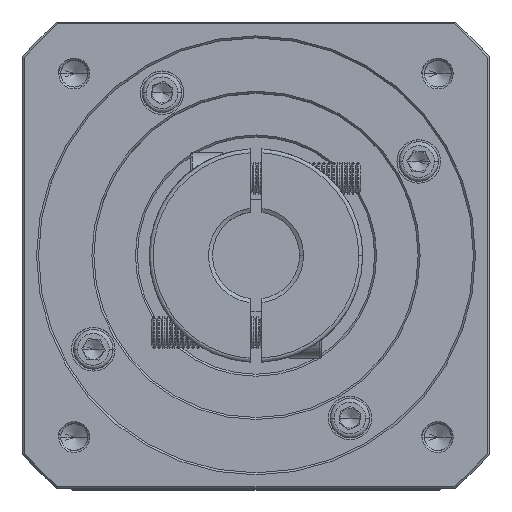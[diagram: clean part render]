
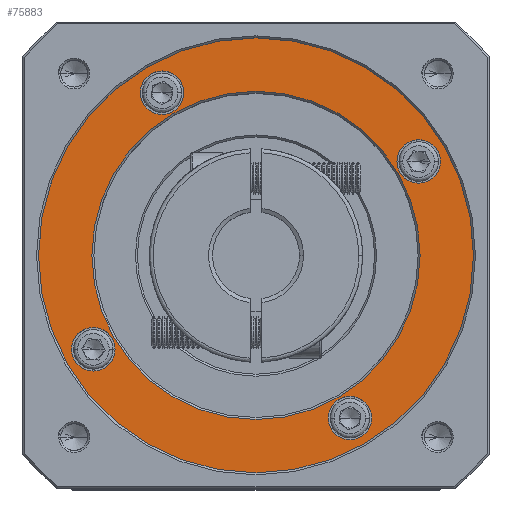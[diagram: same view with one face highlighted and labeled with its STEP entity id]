
A CAD part, top view. The second image highlights one B-rep face of the part: STEP entity #75883.
In plain terms, the highlighted planar face has unit normal (0, 0, 1).
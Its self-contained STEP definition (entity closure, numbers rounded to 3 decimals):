
#1475 = CIRCLE ( 'NONE', #83416, 41.5 ) ;
#2033 = VERTEX_POINT ( 'NONE', #104447 ) ;
#2103 = CIRCLE ( 'NONE', #91191, 5.5 ) ;
#2796 = ORIENTED_EDGE ( 'NONE', *, *, #9601, .T. ) ;
#3412 = CARTESIAN_POINT ( 'NONE',  ( -68.753, -132.661, 7.293 ) ) ;
#6359 = CARTESIAN_POINT ( 'NONE',  ( -27.617, -108.911, 7.293 ) ) ;
#6556 = EDGE_LOOP ( 'NONE', ( #25578, #52685 ) ) ;
#7109 = CARTESIAN_POINT ( 'NONE',  ( -3.867, -150.047, 7.293 ) ) ;
#7330 = FACE_OUTER_BOUND ( 'NONE', #20279, .T. ) ;
#7500 = DIRECTION ( 'NONE',  ( 0., 0., 1. ) ) ;
#8502 = CARTESIAN_POINT ( 'NONE',  ( -51.367, -67.775, 7.293 ) ) ;
#8789 = VERTEX_POINT ( 'NONE', #60836 ) ;
#9470 = ORIENTED_EDGE ( 'NONE', *, *, #53069, .T. ) ;
#9601 = EDGE_CURVE ( 'NONE', #8789, #72852, #2103, .T. ) ;
#11322 = CARTESIAN_POINT ( 'NONE',  ( -51.367, -67.775, 7.293 ) ) ;
#11351 = AXIS2_PLACEMENT_3D ( 'NONE', #56226, #28892, #72448 ) ;
#11507 = DIRECTION ( 'NONE',  ( 1., 0., 0. ) ) ;
#11981 = VERTEX_POINT ( 'NONE', #109277 ) ;
#13644 = AXIS2_PLACEMENT_3D ( 'NONE', #33456, #15517, #24853 ) ;
#14953 = AXIS2_PLACEMENT_3D ( 'NONE', #8502, #36565, #44861 ) ;
#15393 = VERTEX_POINT ( 'NONE', #87364 ) ;
#15517 = DIRECTION ( 'NONE',  ( 0., 0., -1. ) ) ;
#15541 = CARTESIAN_POINT ( 'NONE',  ( 8.019, -85.161, 7.293 ) ) ;
#15679 = CARTESIAN_POINT ( 'NONE',  ( -27.617, -108.911, 7.293 ) ) ;
#16049 = DIRECTION ( 'NONE',  ( 0., 0., -1. ) ) ;
#16906 = EDGE_CURVE ( 'NONE', #36469, #15393, #64556, .T. ) ;
#17913 = AXIS2_PLACEMENT_3D ( 'NONE', #90936, #99556, #45474 ) ;
#18149 = CIRCLE ( 'NONE', #11351, 5.5 ) ;
#18184 = DIRECTION ( 'NONE',  ( 1., 0., 0. ) ) ;
#19692 = ORIENTED_EDGE ( 'NONE', *, *, #58808, .T. ) ;
#20279 = EDGE_LOOP ( 'NONE', ( #56371, #19692 ) ) ;
#20312 = DIRECTION ( 'NONE',  ( 1., 0., 0. ) ) ;
#20431 = EDGE_CURVE ( 'NONE', #102590, #33123, #1475, .T. ) ;
#20860 = CIRCLE ( 'NONE', #29704, 5.5 ) ;
#24643 = DIRECTION ( 'NONE',  ( 0., 0., 1. ) ) ;
#24853 = DIRECTION ( 'NONE',  ( 1., 0., 0. ) ) ;
#25578 = ORIENTED_EDGE ( 'NONE', *, *, #90068, .T. ) ;
#26829 = VERTEX_POINT ( 'NONE', #48190 ) ;
#27653 = DIRECTION ( 'NONE',  ( 0., 0., 1. ) ) ;
#28777 = CIRCLE ( 'NONE', #73084, 5.5 ) ;
#28892 = DIRECTION ( 'NONE',  ( 0., 0., -1. ) ) ;
#29704 = AXIS2_PLACEMENT_3D ( 'NONE', #3412, #92954, #11507 ) ;
#33123 = VERTEX_POINT ( 'NONE', #35084 ) ;
#33339 = CIRCLE ( 'NONE', #17913, 5.5 ) ;
#33456 = CARTESIAN_POINT ( 'NONE',  ( -68.753, -132.661, 7.293 ) ) ;
#33995 = CARTESIAN_POINT ( 'NONE',  ( -27.617, -108.911, 7.293 ) ) ;
#33998 = DIRECTION ( 'NONE',  ( 1., 0., 0. ) ) ;
#34280 = VERTEX_POINT ( 'NONE', #46554 ) ;
#34756 = EDGE_CURVE ( 'NONE', #34280, #2033, #46291, .T. ) ;
#35084 = CARTESIAN_POINT ( 'NONE',  ( -27.617, -150.411, 7.293 ) ) ;
#36469 = VERTEX_POINT ( 'NONE', #97872 ) ;
#36565 = DIRECTION ( 'NONE',  ( 0., 0., -1. ) ) ;
#37821 = DIRECTION ( 'NONE',  ( 1., 0., 0. ) ) ;
#39464 = FACE_BOUND ( 'NONE', #109758, .T. ) ;
#39872 = DIRECTION ( 'NONE',  ( 0., 0., -1. ) ) ;
#40346 = PLANE ( 'NONE',  #111172 ) ;
#41029 = CIRCLE ( 'NONE', #14953, 5.5 ) ;
#41521 = EDGE_LOOP ( 'NONE', ( #72848, #9470 ) ) ;
#43253 = EDGE_LOOP ( 'NONE', ( #92287, #104820 ) ) ;
#44861 = DIRECTION ( 'NONE',  ( 1., 0., 0. ) ) ;
#45474 = DIRECTION ( 'NONE',  ( 1., 0., 0. ) ) ;
#46291 = CIRCLE ( 'NONE', #103343, 5.5 ) ;
#46554 = CARTESIAN_POINT ( 'NONE',  ( 1.633, -150.047, 7.293 ) ) ;
#47848 = FACE_BOUND ( 'NONE', #43253, .T. ) ;
#48190 = CARTESIAN_POINT ( 'NONE',  ( -63.253, -132.661, 7.293 ) ) ;
#51286 = VERTEX_POINT ( 'NONE', #83034 ) ;
#52343 = AXIS2_PLACEMENT_3D ( 'NONE', #6359, #24643, #113554 ) ;
#52685 = ORIENTED_EDGE ( 'NONE', *, *, #69647, .T. ) ;
#53069 = EDGE_CURVE ( 'NONE', #51286, #26829, #20860, .T. ) ;
#56226 = CARTESIAN_POINT ( 'NONE',  ( -3.867, -150.047, 7.293 ) ) ;
#56371 = ORIENTED_EDGE ( 'NONE', *, *, #16906, .T. ) ;
#57043 = CARTESIAN_POINT ( 'NONE',  ( -27.617, -108.911, 7.293 ) ) ;
#57422 = EDGE_CURVE ( 'NONE', #33123, #102590, #64481, .T. ) ;
#58808 = EDGE_CURVE ( 'NONE', #15393, #36469, #115872, .T. ) ;
#60836 = CARTESIAN_POINT ( 'NONE',  ( -45.867, -67.775, 7.293 ) ) ;
#63106 = EDGE_CURVE ( 'NONE', #26829, #51286, #111108, .T. ) ;
#63150 = DIRECTION ( 'NONE',  ( 0., 0., -1. ) ) ;
#64481 = CIRCLE ( 'NONE', #97720, 41.5 ) ;
#64556 = CIRCLE ( 'NONE', #52343, 55. ) ;
#69647 = EDGE_CURVE ( 'NONE', #105175, #11981, #28777, .T. ) ;
#70465 = DIRECTION ( 'NONE',  ( 1., 0., 0. ) ) ;
#72448 = DIRECTION ( 'NONE',  ( 1., 0., 0. ) ) ;
#72848 = ORIENTED_EDGE ( 'NONE', *, *, #63106, .T. ) ;
#72852 = VERTEX_POINT ( 'NONE', #87276 ) ;
#73084 = AXIS2_PLACEMENT_3D ( 'NONE', #108224, #63150, #18184 ) ;
#74571 = AXIS2_PLACEMENT_3D ( 'NONE', #100128, #27653, #37821 ) ;
#74575 = FACE_BOUND ( 'NONE', #112469, .T. ) ;
#75883 = ADVANCED_FACE ( 'NONE', ( #7330, #47848, #88521, #39464, #74575, #108139 ), #40346, .T. ) ;
#76697 = DIRECTION ( 'NONE',  ( 0., -1., 0. ) ) ;
#81948 = ORIENTED_EDGE ( 'NONE', *, *, #105655, .T. ) ;
#83034 = CARTESIAN_POINT ( 'NONE',  ( -74.253, -132.661, 7.293 ) ) ;
#83416 = AXIS2_PLACEMENT_3D ( 'NONE', #33995, #88124, #87714 ) ;
#87276 = CARTESIAN_POINT ( 'NONE',  ( -56.867, -67.775, 7.293 ) ) ;
#87364 = CARTESIAN_POINT ( 'NONE',  ( -82.617, -108.911, 7.293 ) ) ;
#87714 = DIRECTION ( 'NONE',  ( 0., -1., 0. ) ) ;
#88124 = DIRECTION ( 'NONE',  ( 0., 0., -1. ) ) ;
#88521 = FACE_BOUND ( 'NONE', #6556, .T. ) ;
#90068 = EDGE_CURVE ( 'NONE', #11981, #105175, #33339, .T. ) ;
#90936 = CARTESIAN_POINT ( 'NONE',  ( 13.519, -85.161, 7.293 ) ) ;
#91191 = AXIS2_PLACEMENT_3D ( 'NONE', #11322, #91994, #20312 ) ;
#91994 = DIRECTION ( 'NONE',  ( 0., 0., -1. ) ) ;
#92287 = ORIENTED_EDGE ( 'NONE', *, *, #57422, .T. ) ;
#92954 = DIRECTION ( 'NONE',  ( 0., 0., -1. ) ) ;
#94266 = ORIENTED_EDGE ( 'NONE', *, *, #106840, .T. ) ;
#97720 = AXIS2_PLACEMENT_3D ( 'NONE', #57043, #39872, #76697 ) ;
#97872 = CARTESIAN_POINT ( 'NONE',  ( 27.383, -108.911, 7.293 ) ) ;
#99556 = DIRECTION ( 'NONE',  ( 0., 0., -1. ) ) ;
#100128 = CARTESIAN_POINT ( 'NONE',  ( -27.617, -108.911, 7.293 ) ) ;
#102590 = VERTEX_POINT ( 'NONE', #103723 ) ;
#103343 = AXIS2_PLACEMENT_3D ( 'NONE', #7109, #16049, #70465 ) ;
#103723 = CARTESIAN_POINT ( 'NONE',  ( -27.617, -67.411, 7.293 ) ) ;
#104447 = CARTESIAN_POINT ( 'NONE',  ( -9.367, -150.047, 7.293 ) ) ;
#104820 = ORIENTED_EDGE ( 'NONE', *, *, #20431, .T. ) ;
#105175 = VERTEX_POINT ( 'NONE', #15541 ) ;
#105655 = EDGE_CURVE ( 'NONE', #72852, #8789, #41029, .T. ) ;
#106840 = EDGE_CURVE ( 'NONE', #2033, #34280, #18149, .T. ) ;
#107512 = ORIENTED_EDGE ( 'NONE', *, *, #34756, .T. ) ;
#108139 = FACE_BOUND ( 'NONE', #41521, .T. ) ;
#108224 = CARTESIAN_POINT ( 'NONE',  ( 13.519, -85.161, 7.293 ) ) ;
#109277 = CARTESIAN_POINT ( 'NONE',  ( 19.019, -85.161, 7.293 ) ) ;
#109758 = EDGE_LOOP ( 'NONE', ( #107512, #94266 ) ) ;
#111108 = CIRCLE ( 'NONE', #13644, 5.5 ) ;
#111172 = AXIS2_PLACEMENT_3D ( 'NONE', #15679, #7500, #33998 ) ;
#112469 = EDGE_LOOP ( 'NONE', ( #2796, #81948 ) ) ;
#113554 = DIRECTION ( 'NONE',  ( 1., 0., 0. ) ) ;
#115872 = CIRCLE ( 'NONE', #74571, 55. ) ;
